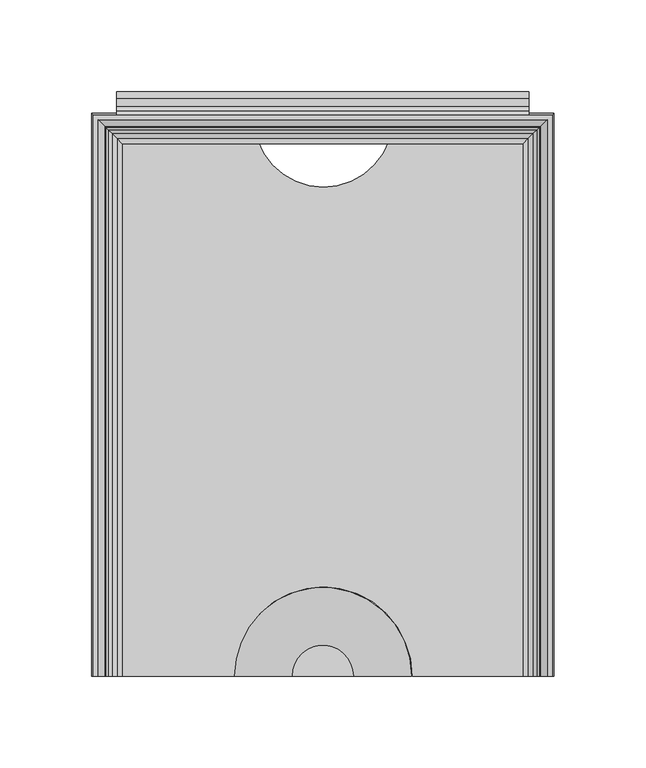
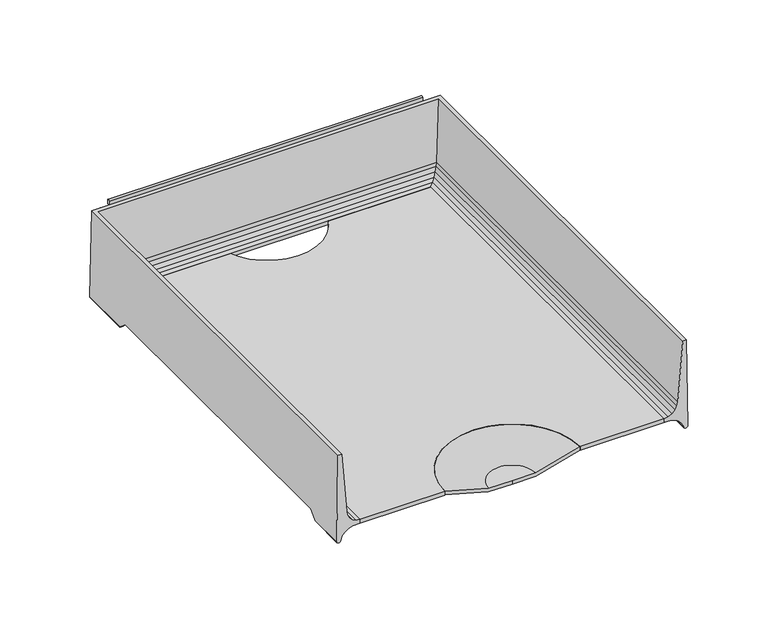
"""IFC4 building model written with IfcOpenShell, lengths in millimetres: furniture geometry."""

from ifc_helpers import new_model, si_unit, point, frame, frame_2d, origin, place, context, project, spatial, polyline, circle_curve, ellipse_curve, trimmed, segment, composite_curve, outline, extrude, source, transform, mapped, element, save
from ifc_brep_helpers import plane_surface, cylinder_surface, revolved_surface, advanced_brep


def furniture_77e4657b(model_context):
    return source(origin(), model_context, "Body", "SolidModel", [
        advanced_brep(
        [(126.0820502, -154.0206082, 782.3257489), (125.1325529, -154.0206082, 847.7251914), (122.4547921, -154.0206082, 847.7251914), (118.8379747, -154.0206082, 802.9381003), (118.4123648, -154.0206082, 800.2046052), (117.0774354, -154.0206082, 797.5035664), (114.9656457, -154.0206082, 795.3546015), (112.28832, -154.0206082, 793.9727261), (109.3133381, -154.0206082, 793.4962052), (109.3133381, -154.0206082, 790.6740971), (114.5666739, -154.0206082, 790.4810987), (117.605351, -154.0206082, 789.4247218), (120.2416, -154.0206082, 787.5808822), (122.2762142, -154.0206082, 785.0889079), (123.1625518, -154.0206082, 782.0456655), (126.0820502, -127.6379698, 782.3257489), (126.0026181, -121.5231874, 787.796872), (126.0026181, 109.0611937, 787.796872), (126.0820502, 115.1759816, 782.3257489), (126.0820502, 153.036442, 782.3257489), (125.1325529, 152.0869447, 847.7251914), (-125.1325529, 152.0869447, 847.7251914), (-125.1325529, -154.0206082, 847.7251914), (-122.4547921, -154.0206082, 847.7251914), (-122.4547921, 149.4091839, 847.7251914), (122.4547921, 149.4091839, 847.7251914), (118.8379747, 145.7923665, 802.9381003), (118.4123648, 145.3667566, 800.2046052), (117.0774354, 144.0318272, 797.5035664), (114.9656457, 141.9200375, 795.3546015), (112.28832, 139.2427118, 793.9727261), (109.3133381, 136.2677299, 793.4962052), (109.3133381, 136.2677299, 790.6740971), (114.5666739, 141.5210656, 790.4810987), (117.605351, 144.5597428, 789.4247218), (120.2416, 147.1959918, 787.5808822), (120.2416, 109.3025941, 787.5808822), (119.9327864, 109.0611937, 787.796872), (119.9327864, -121.5231874, 787.796872), (120.2416, -121.7645876, 787.5808822), (122.2762142, -124.5497344, 785.0889079), (122.2762142, 149.230606, 785.0889079), (122.2762142, 112.0877435, 785.0889079), (123.1625518, -127.9510041, 782.0456655), (123.1625518, 150.1169436, 782.0456655), (123.1625518, 115.4890162, 782.0456655), (-126.0820502, 153.036442, 782.3257489), (-118.8379747, 145.7923665, 802.9381003), (-118.4123648, 145.3667566, 800.2046052), (-117.0774354, 144.0318272, 797.5035664), (-114.9656457, 141.9200375, 795.3546015), (-112.28832, 139.2427118, 793.9727261), (-109.3133381, 136.2677299, 793.4962052), (-109.3133381, 136.2677299, 790.6740971), (-114.5666739, 141.5210656, 790.4810987), (-117.605351, 144.5597428, 789.4247218), (-120.2416, 147.1959918, 787.5808822), (-122.2762142, 149.230606, 785.0889079), (-123.1625518, 150.1169436, 782.0456655), (-126.0820502, -154.0206082, 782.3257489), (-123.1625518, -154.0206082, 782.0456655), (-122.2762142, -154.0206082, 785.0889079), (-120.2416, -154.0206082, 787.5808822), (-117.605351, -154.0206082, 789.4247218), (-114.5666739, -154.0206082, 790.4810987), (-109.3133381, -154.0206082, 790.6740971), (-109.3133381, -154.0206082, 793.4962052), (-112.28832, -154.0206082, 793.9727261), (-114.9656457, -154.0206082, 795.3546015), (-117.0774354, -154.0206082, 797.5035664), (-118.4123648, -154.0206082, 800.2046052), (-118.8379747, -154.0206082, 802.9381003), (-126.0820502, 115.1759816, 782.3257489), (-126.0026181, 109.0611937, 787.796872), (-126.0026181, -121.5231874, 787.796872), (-126.0820502, -127.6379698, 782.3257489), (-120.2416, -121.7645876, 787.5808822), (-119.9327864, -121.5231874, 787.796872), (-119.9327864, 109.0611937, 787.796872), (-120.2416, 109.3025941, 787.5808822), (-122.2762142, 112.0877435, 785.0889079), (-122.2762142, -124.5497344, 785.0889079), (-123.1625518, 115.4890162, 782.0456655), (-123.1625518, -127.9510041, 782.0456655)],
        [
            (0, 1),
            (1, 2),
            (2, 3),
            (3, 4),
            (4, 5),
            (5, 6),
            (6, 7),
            (7, 8),
            (8, 9),
            (9, 10),
            (10, 11),
            (11, 12),
            (12, 13),
            (13, 14),
            (14, 0, circle_curve(frame((124.5859452, -154.0206082, 782.5646685), z_axis=(0.0, -1.0, 0.0), x_axis=(-1.0, 0.0, 0.0)), 1.515062)),
            (0, 15),
            (15, 16),
            (16, 17),
            (17, 18),
            (18, 19),
            (19, 20),
            (20, 1),
            (20, 21),
            (21, 22),
            (22, 23),
            (23, 24),
            (24, 25),
            (25, 2),
            (25, 26),
            (26, 3),
            (26, 27),
            (27, 4),
            (27, 28),
            (28, 5),
            (28, 29),
            (29, 6),
            (29, 30),
            (30, 7),
            (30, 31),
            (31, 8),
            (31, 32),
            (32, 9),
            (32, 33),
            (33, 10),
            (33, 34),
            (34, 11),
            (34, 35),
            (35, 36),
            (36, 37),
            (37, 38),
            (38, 39),
            (39, 12),
            (39, 40),
            (40, 13),
            (35, 41),
            (41, 42),
            (42, 36),
            (40, 43),
            (43, 14),
            (41, 44),
            (44, 45),
            (45, 42),
            (43, 15, ellipse_curve(frame((124.5859452, -127.3709422, 782.5646685), z_axis=(0.0, -0.6667949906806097, 0.7452411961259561), x_axis=(0.0, -0.7452411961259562, -0.6667949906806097)), 2.2721556, 1.515062)),
            (44, 19, ellipse_curve(frame((124.5859452, 151.540337, 782.5646685), z_axis=(0.7071067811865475, -0.7071067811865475, 0.0), x_axis=(-0.7071067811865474, -0.7071067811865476, 0.0)), 2.1426212, 1.515062)),
            (18, 45, ellipse_curve(frame((124.5859452, 114.9089538, 782.5646685), z_axis=(0.0, 0.6667946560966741, 0.7452414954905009), x_axis=(0.0, -0.7452414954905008, 0.6667946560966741)), 2.2721567, 1.515062)),
            (19, 46),
            (46, 21),
            (24, 47),
            (47, 26),
            (47, 48),
            (48, 27),
            (48, 49),
            (49, 28),
            (49, 50),
            (50, 29),
            (50, 51),
            (51, 30),
            (51, 52),
            (52, 31),
            (52, 53),
            (53, 32),
            (53, 54),
            (54, 33),
            (54, 55),
            (55, 34),
            (55, 56),
            (56, 35),
            (56, 57),
            (57, 41),
            (57, 58),
            (58, 44),
            (58, 46, ellipse_curve(frame((-124.5859452, 151.540337, 782.5646685), z_axis=(0.7071067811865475, 0.7071067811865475, 0.0), x_axis=(0.7071067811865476, -0.7071067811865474, 0.0)), 2.1426212, 1.515062)),
            (22, 59),
            (59, 60, circle_curve(frame((-124.5859452, -154.0206082, 782.5646685), z_axis=(0.0, -1.0, 0.0), x_axis=(1.0, 0.0, 0.0)), 1.515062)),
            (60, 61),
            (61, 62),
            (62, 63),
            (63, 64),
            (64, 65),
            (65, 66),
            (66, 67),
            (67, 68),
            (68, 69),
            (69, 70),
            (70, 71),
            (71, 23),
            (46, 72),
            (72, 73),
            (73, 74),
            (74, 75),
            (75, 59),
            (71, 47),
            (70, 48),
            (69, 49),
            (68, 50),
            (67, 51),
            (66, 52),
            (65, 53),
            (64, 54),
            (63, 55),
            (62, 76),
            (76, 77),
            (77, 78),
            (78, 79),
            (79, 56),
            (79, 80),
            (80, 57),
            (61, 81),
            (81, 76),
            (80, 82),
            (82, 58),
            (60, 83),
            (83, 81),
            (82, 72, ellipse_curve(frame((-124.5859452, 114.9089538, 782.5646685), z_axis=(0.0, 0.6667946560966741, 0.7452414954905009), x_axis=(0.0, 0.7452414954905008, -0.6667946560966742)), 2.2721567, 1.515062)),
            (75, 83, ellipse_curve(frame((-124.5859452, -127.3709422, 782.5646685), z_axis=(0.0, -0.6667949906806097, 0.7452411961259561), x_axis=(0.0, 0.745241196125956, 0.6667949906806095)), 2.2721556, 1.515062)),
            (38, 16),
            (74, 77),
            (37, 17),
            (73, 78),
        ],
        [
            plane_surface(frame((127.0, -154.0206082, 781.05), z_axis=(0.0, -1.0, 0.0), x_axis=(0.0, 0.0, 1.0))),
            plane_surface(frame((126.0820502, -154.0206082, 782.3257489), z_axis=(0.9998946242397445, 0.0, 0.014516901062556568), x_axis=(0.0, 1.0, 0.0))),
            plane_surface(frame((125.1325529, -154.0206082, 847.7251914), z_axis=(0.0, 0.0, 1.0), x_axis=(0.0, 1.0, 0.0))),
            plane_surface(frame((122.4547921, -154.0206082, 847.7251914), z_axis=(-0.9967551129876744, 0.0, 0.08049375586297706), x_axis=(0.0, 1.0, 0.0))),
            plane_surface(frame((118.8379747, -154.0206082, 802.9381003), z_axis=(-0.9880945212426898, 0.0, 0.15384803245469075), x_axis=(0.0, 1.0, 0.0))),
            plane_surface(frame((118.4123648, -154.0206082, 800.2046052), z_axis=(-0.8964873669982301, 0.0, 0.44306929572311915), x_axis=(0.0, 1.0, 0.0))),
            plane_surface(frame((117.0774354, -154.0206082, 797.5035664), z_axis=(-0.7132491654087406, 0.0, 0.7009105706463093), x_axis=(0.0, 1.0, 0.0))),
            plane_surface(frame((114.9656457, -154.0206082, 795.3546015), z_axis=(-0.45865074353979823, 0.0, 0.8886166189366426), x_axis=(0.0, 1.0, 0.0))),
            plane_surface(frame((112.28832, -154.0206082, 793.9727261), z_axis=(-0.15816001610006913, 0.0, 0.987413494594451), x_axis=(0.0, 1.0, 0.0))),
            plane_surface(frame((109.3133381, -154.0206082, 793.4962052), z_axis=(-1.0, 0.0, 0.0), x_axis=(0.0, 1.0, 0.0))),
            plane_surface(frame((109.3133381, -154.0206082, 790.6740971), z_axis=(-0.036713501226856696, 0.0, -0.9993258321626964), x_axis=(0.0, 1.0, 0.0))),
            plane_surface(frame((114.5666739, -154.0206082, 790.4810987), z_axis=(-0.3283669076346, 0.0, -0.9445502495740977), x_axis=(0.0, 1.0, 0.0))),
            plane_surface(frame((117.605351, -154.0206082, 789.4247218), z_axis=(-0.5731421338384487, 0.0, -0.819455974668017), x_axis=(0.0, 1.0, 0.0))),
            plane_surface(frame((120.2416, -154.0206082, 787.5808822), z_axis=(-0.77460799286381, 0.0, -0.6324416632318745), x_axis=(0.0, 1.0, 0.0))),
            plane_surface(frame((122.2762142, -154.0206082, 785.0889079), z_axis=(-0.9601080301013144, 0.0, -0.2796293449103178), x_axis=(0.0, 1.0, 0.0))),
            cylinder_surface(frame((124.5859452, -154.0206082, 782.5646685), z_axis=(0.0, -1.0, 0.0), x_axis=(-1.0, 0.0, 0.0)), 1.515062),
            plane_surface(frame((126.0820502, 153.036442, 782.3257489), z_axis=(0.0, 0.9998946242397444, 0.014516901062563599), x_axis=(-1.0, 0.0, 0.0))),
            plane_surface(frame((122.4547921, 149.4091839, 847.7251914), z_axis=(0.0, -0.9967551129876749, 0.08049375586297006), x_axis=(-1.0, 0.0, 0.0))),
            plane_surface(frame((118.8379747, 145.7923665, 802.9381003), z_axis=(0.0, -0.9880945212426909, 0.15384803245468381), x_axis=(-1.0, 0.0, 0.0))),
            plane_surface(frame((118.4123648, 145.3667566, 800.2046052), z_axis=(0.0, -0.8964873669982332, 0.4430692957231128), x_axis=(-1.0, 0.0, 0.0))),
            plane_surface(frame((117.0774354, 144.0318272, 797.5035664), z_axis=(0.0, -0.7132491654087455, 0.7009105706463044), x_axis=(-1.0, 0.0, 0.0))),
            plane_surface(frame((114.9656457, 141.9200375, 795.3546015), z_axis=(0.0, -0.4586507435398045, 0.8886166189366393), x_axis=(-1.0, 0.0, 0.0))),
            plane_surface(frame((112.28832, 139.2427118, 793.9727261), z_axis=(0.0, -0.15816001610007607, 0.9874134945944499), x_axis=(-1.0, 0.0, 0.0))),
            plane_surface(frame((109.3133381, 136.2677299, 793.4962052), z_axis=(0.0, -1.0, 0.0), x_axis=(-1.0, 0.0, 0.0))),
            plane_surface(frame((109.3133381, 136.2677299, 790.6740971), z_axis=(0.0, -0.03671350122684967, -0.9993258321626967), x_axis=(-1.0, 0.0, 0.0))),
            plane_surface(frame((114.5666739, 141.5210656, 790.4810987), z_axis=(0.0, -0.32836690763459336, -0.9445502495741), x_axis=(-1.0, 0.0, 0.0))),
            plane_surface(frame((117.605351, 144.5597428, 789.4247218), z_axis=(0.0, -0.5731421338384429, -0.819455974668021), x_axis=(-1.0, 0.0, 0.0))),
            plane_surface(frame((120.2416, 147.1959918, 787.5808822), z_axis=(0.0, -0.7746079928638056, -0.6324416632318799), x_axis=(-1.0, 0.0, 0.0))),
            plane_surface(frame((122.2762142, 149.230606, 785.0889079), z_axis=(0.0, -0.9601080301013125, -0.27962934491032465), x_axis=(-1.0, 0.0, 0.0))),
            cylinder_surface(frame((127.0, 151.540337, 782.5646685), z_axis=(1.0, 0.0, 0.0), x_axis=(0.0, -1.0, 0.0)), 1.515062),
            plane_surface(frame((-127.0, -154.0206082, 781.05), z_axis=(0.0, -1.0, 0.0), x_axis=(0.0, 0.0, 1.0))),
            plane_surface(frame((-126.0820502, 153.036442, 782.3257489), z_axis=(-0.9998946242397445, 0.0, 0.014516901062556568), x_axis=(0.0, -1.0, 0.0))),
            plane_surface(frame((-122.4547921, 149.4091839, 847.7251914), z_axis=(0.9967551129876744, 0.0, 0.08049375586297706), x_axis=(0.0, -1.0, 0.0))),
            plane_surface(frame((-118.8379747, 145.7923665, 802.9381003), z_axis=(0.9880945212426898, 0.0, 0.15384803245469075), x_axis=(0.0, -1.0, 0.0))),
            plane_surface(frame((-118.4123648, 145.3667566, 800.2046052), z_axis=(0.8964873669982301, 0.0, 0.44306929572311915), x_axis=(0.0, -1.0, 0.0))),
            plane_surface(frame((-117.0774354, 144.0318272, 797.5035664), z_axis=(0.7132491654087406, 0.0, 0.7009105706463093), x_axis=(0.0, -1.0, 0.0))),
            plane_surface(frame((-114.9656457, 141.9200375, 795.3546015), z_axis=(0.45865074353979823, 0.0, 0.8886166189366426), x_axis=(0.0, -1.0, 0.0))),
            plane_surface(frame((-112.28832, 139.2427118, 793.9727261), z_axis=(0.15816001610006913, 0.0, 0.987413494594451), x_axis=(0.0, -1.0, 0.0))),
            plane_surface(frame((-109.3133381, 136.2677299, 793.4962052), z_axis=(1.0, 0.0, 0.0), x_axis=(0.0, -1.0, 0.0))),
            plane_surface(frame((-109.3133381, 136.2677299, 790.6740971), z_axis=(0.036713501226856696, 0.0, -0.9993258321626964), x_axis=(0.0, -1.0, 0.0))),
            plane_surface(frame((-114.5666739, 141.5210656, 790.4810987), z_axis=(0.3283669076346, 0.0, -0.9445502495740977), x_axis=(0.0, -1.0, 0.0))),
            plane_surface(frame((-117.605351, 144.5597428, 789.4247218), z_axis=(0.5731421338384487, 0.0, -0.819455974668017), x_axis=(0.0, -1.0, 0.0))),
            plane_surface(frame((-120.2416, 147.1959918, 787.5808822), z_axis=(0.77460799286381, 0.0, -0.6324416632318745), x_axis=(0.0, -1.0, 0.0))),
            plane_surface(frame((-122.2762142, 149.230606, 785.0889079), z_axis=(0.9601080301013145, 0.0, -0.2796293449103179), x_axis=(0.0, -1.0, 0.0))),
            cylinder_surface(frame((-124.5859452, 153.9543918, 782.5646685), z_axis=(0.0, 1.0, 0.0), x_axis=(1.0, 0.0, 0.0)), 1.515062),
            plane_surface(frame((-127.0, -130.1695728, 780.0606296), z_axis=(0.0, 0.6667949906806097, -0.7452411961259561), x_axis=(1.0, 0.0, 0.0))),
            plane_surface(frame((-127.0, -121.5231874, 787.796872), z_axis=(0.0, 0.0, -1.0), x_axis=(1.0, 0.0, 0.0))),
            plane_surface(frame((-127.0, 109.0611937, 787.796872), z_axis=(0.0, -0.6667946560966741, -0.7452414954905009), x_axis=(1.0, 0.0, 0.0))),
        ],
        [
            (0, [[1, 2, 3, 4, 5, 6, 7, 8, 9, 10, 11, 12, 13, 14, 15]]),
            (1, [[-1, 16, 17, 18, 19, 20, 21, 22]]),
            (2, [[-2, -22, 23, 24, 25, 26, 27, 28]]),
            (3, [[-3, -28, 29, 30]]),
            (4, [[-4, -30, 31, 32]]),
            (5, [[-5, -32, 33, 34]]),
            (6, [[-6, -34, 35, 36]]),
            (7, [[-7, -36, 37, 38]]),
            (8, [[-8, -38, 39, 40]]),
            (9, [[-9, -40, 41, 42]]),
            (10, [[-10, -42, 43, 44]]),
            (11, [[-11, -44, 45, 46]]),
            (12, [[-12, -46, 47, 48, 49, 50, 51, 52]]),
            (13, [[-13, -52, 53, 54]]),
            (13, [[55, 56, 57, -48]]),
            (14, [[-14, -54, 58, 59]]),
            (14, [[60, 61, 62, -56]]),
            (15, [[-15, -59, 63, -16]]),
            (15, [[64, -20, 65, -61]]),
            (16, [[-21, 66, 67, -23]]),
            (17, [[-27, 68, 69, -29]]),
            (18, [[-31, -69, 70, 71]]),
            (19, [[-33, -71, 72, 73]]),
            (20, [[-35, -73, 74, 75]]),
            (21, [[-37, -75, 76, 77]]),
            (22, [[-39, -77, 78, 79]]),
            (23, [[-41, -79, 80, 81]]),
            (24, [[-43, -81, 82, 83]]),
            (25, [[-45, -83, 84, 85]]),
            (26, [[-47, -85, 86, 87]]),
            (27, [[-55, -87, 88, 89]]),
            (28, [[-60, -89, 90, 91]]),
            (29, [[-64, -91, 92, -66]]),
            (30, [[-25, 93, 94, 95, 96, 97, 98, 99, 100, 101, 102, 103, 104, 105, 106]]),
            (31, [[-24, -67, 107, 108, 109, 110, 111, -93]]),
            (32, [[-26, -106, 112, -68]]),
            (33, [[-70, -112, -105, 113]]),
            (34, [[-72, -113, -104, 114]]),
            (35, [[-74, -114, -103, 115]]),
            (36, [[-76, -115, -102, 116]]),
            (37, [[-78, -116, -101, 117]]),
            (38, [[-80, -117, -100, 118]]),
            (39, [[-82, -118, -99, 119]]),
            (40, [[-84, -119, -98, 120]]),
            (41, [[-86, -120, -97, 121, 122, 123, 124, 125]]),
            (42, [[-88, -125, 126, 127]]),
            (42, [[-96, 128, 129, -121]]),
            (43, [[-90, -127, 130, 131]]),
            (43, [[-95, 132, 133, -128]]),
            (44, [[-92, -131, 134, -107]]),
            (44, [[-94, -111, 135, -132]]),
            (45, [[136, -17, -63, -58, -53, -51]]),
            (45, [[137, -122, -129, -133, -135, -110]]),
            (46, [[-136, -50, 138, -18]]),
            (46, [[-137, -109, 139, -123]]),
            (47, [[-138, -49, -57, -62, -65, -19]]),
            (47, [[-139, -108, -134, -130, -126, -124]]),
        ],
    ),
        extrude(outline(composite_curve([segment(polyline([(-109.3647805, 138.2769393), (-35.6610422, 138.2769393)]), True, "CONTINUOUS"), segment(trimmed(circle_curve(frame_2d((0.3369133, 150.6584166)), 38.0677525), [point((-35.6610422, 138.2769393))], [point((36.3348688, 138.2769393))], True, "CARTESIAN"), True, "CONTINUOUS"), segment(polyline([(36.3348688, 138.2769393), (109.6504969, 138.2769393), (109.6504969, -153.9875), (48.9112184, -153.9875)]), True, "CONTINUOUS"), segment(trimmed(circle_curve(frame_2d((0.2842795, -153.9323196)), 48.6269702), [point((48.9112184, -153.9875))], [point((-48.3426595, -153.9875))], True, "CARTESIAN"), True, "CONTINUOUS"), segment(polyline([(-48.3426595, -153.9875), (-109.3647805, -153.9875), (-109.3647805, 138.2769393)]), True, "CONTINUOUS")], self_intersect=False)), frame((0.0, 0.0, 790.6564677), z_axis=(0.0, 0.0, 1.0), x_axis=(1.0, 0.0, 0.0)), (0.0, 0.0, 1.0), 2.8395461),
        extrude(outline(composite_curve([segment(trimmed(circle_curve(frame_2d((162.7186949, 831.8957343)), 1.9049988), [point((164.6236937, 831.8957343))], [point((160.8136962, 831.8957343))], False, "CARTESIAN"), True, "CONTINUOUS"), segment(polyline([(160.8136962, 831.8957343), (160.8136962, 835.3247311), (160.0516969, 836.0867303), (156.4380325, 836.0867303), (152.1427596, 833.7393331), (152.1427596, 842.2441285), (156.4380325, 839.8967312), (160.8136928, 839.8967312)]), True, "CONTINUOUS"), segment(trimmed(circle_curve(frame_2d((160.8136928, 836.0867303)), 3.8100009), [point((160.8136928, 839.8967312))], [point((164.6236937, 836.0867303))], False, "CARTESIAN"), True, "CONTINUOUS"), segment(polyline([(164.6236937, 836.0867303), (164.6236937, 831.8957343)]), True, "CONTINUOUS")], self_intersect=False)), frame((-112.5397809, 0.0, 0.0), z_axis=(1.0, 0.0, 0.0), x_axis=(0.0, 1.0, 0.0)), (0.0, 0.0, 1.0), 225.0795617),
        advanced_brep(
        [(-16.8929028, -153.9875, 784.621875), (-48.4614622, -153.9875, 793.5295432), (-48.4614622, -153.9875, 790.9380018), (-16.9249292, -153.9875, 782.0393704), (0.0, -153.9875, 782.0393704), (0.0, -153.9875, 784.621875), (16.8929028, -153.9875, 784.621875), (16.9249292, -153.9875, 782.0393704), (48.4614622, -153.9875, 790.9380018), (48.4614622, -153.9875, 793.5295432)],
        [
            (0, 1),
            (1, 2),
            (2, 3),
            (3, 4),
            (4, 5),
            (5, 0),
            (6, 5),
            (4, 7),
            (7, 8),
            (8, 9),
            (9, 6),
            (9, 1, circle_curve(frame((0.0, -153.9875, 793.5295432), z_axis=(0.0, 0.0, 1.0), x_axis=(-1.0, 0.0, 0.0)), 48.4614622)),
            (0, 6, circle_curve(frame((0.0, -153.9875, 784.621875), z_axis=(0.0, 0.0, -1.0), x_axis=(-1.0, 0.0, 0.0)), 16.8929028)),
            (8, 2, circle_curve(frame((0.0, -153.9875, 790.9380018), z_axis=(0.0, 0.0, 1.0), x_axis=(-1.0, 0.0, 0.0)), 48.4614622)),
            (7, 3, circle_curve(frame((0.0, -153.9875, 782.0393704), z_axis=(0.0, 0.0, 1.0), x_axis=(-1.0, 0.0, 0.0)), 16.9249292)),
        ],
        [
            plane_surface(frame((0.0, -153.9875, 781.05), z_axis=(0.0, -1.0, 0.0), x_axis=(-1.0, 0.0, 0.0))),
            plane_surface(frame((0.0, -153.9875, 781.05), z_axis=(0.0, -1.0, 0.0), x_axis=(1.0, 0.0, 0.0))),
            revolved_surface(polyline([(-48.4614622, -153.9875, 793.5295432), (-16.8929028, -153.9875, 784.621875)]), (0.0, -153.9875, 781.05), (0.0, 0.0, 1.0)),
            cylinder_surface(frame((0.0, -153.9875, 781.05), z_axis=(0.0, 0.0, 1.0), x_axis=(-1.0, 0.0, 0.0)), 48.4614622),
            revolved_surface(polyline([(-16.9249292, -153.9875, 782.0393704), (-48.4614622, -153.9875, 790.9380018)]), (0.0, -153.9875, 781.05), (0.0, 0.0, 1.0)),
            plane_surface(frame((0.0, -153.9875, 782.0393704), z_axis=(0.0, 0.0, -1.0), x_axis=(-1.0, 0.0, 0.0))),
            plane_surface(frame((0.0, -153.9875, 784.621875), z_axis=(0.0, 0.0, 1.0), x_axis=(-1.0, 0.0, 0.0))),
        ],
        [
            (0, [[1, 2, 3, 4, 5, 6]]),
            (1, [[7, -5, 8, 9, 10, 11]]),
            (2, [[12, -1, 13, -11]]),
            (3, [[14, -2, -12, -10]]),
            (4, [[15, -3, -14, -9]]),
            (5, [[-4, -15, -8]]),
            (6, [[-13, -6, -7]]),
        ],
    ),
        extrude(outline(composite_curve([segment(polyline([(153.9875, 847.725), (152.1427596, 847.725), (152.1427596, 850.5565333)]), True, "CONTINUOUS"), segment(trimmed(circle_curve(frame_2d((153.0651298, 850.2512665)), 0.9715733), [point((152.1427596, 850.5565333))], [point((153.9875, 850.5565333))], False, "CARTESIAN"), True, "CONTINUOUS"), segment(polyline([(153.9875, 850.5565333), (153.9875, 847.725)]), True, "CONTINUOUS")], self_intersect=False)), frame((-112.5397809, 0.0, 0.0), z_axis=(1.0, 0.0, 0.0), x_axis=(0.0, 1.0, 0.0)), (0.0, 0.0, 1.0), 225.0795617),
    ])


if __name__ == "__main__":
    model = new_model("IFC4")
    model_context = context("Model", 3, world=origin())
    ifc_project = project(units=[si_unit("LENGTHUNIT", "METRE", prefix="MILLI")], contexts=[model_context])
    site = spatial("IfcSite", under=ifc_project)
    building = spatial("IfcBuilding", under=site)
    placement = place(None, origin())
    furniture_shape = furniture_77e4657b(model_context)
    element("IfcFurniture", 1, ObjectType="HermanMiller_ThrivePortfolio_Y7216_PaperTray : 3\"H x 12\"D x 10\"W", at=placement, inside=building, context=model_context, shape_type="MappedRepresentation", body=[
        mapped(furniture_shape, transform((0.0, 0.0, 0.0), x_axis=(1.0, 0.0, 0.0), y_axis=(0.0, 1.0, 0.0), z_axis=(0.0, 0.0, 1.0))),
    ])
    save(model, "model.ifc")
